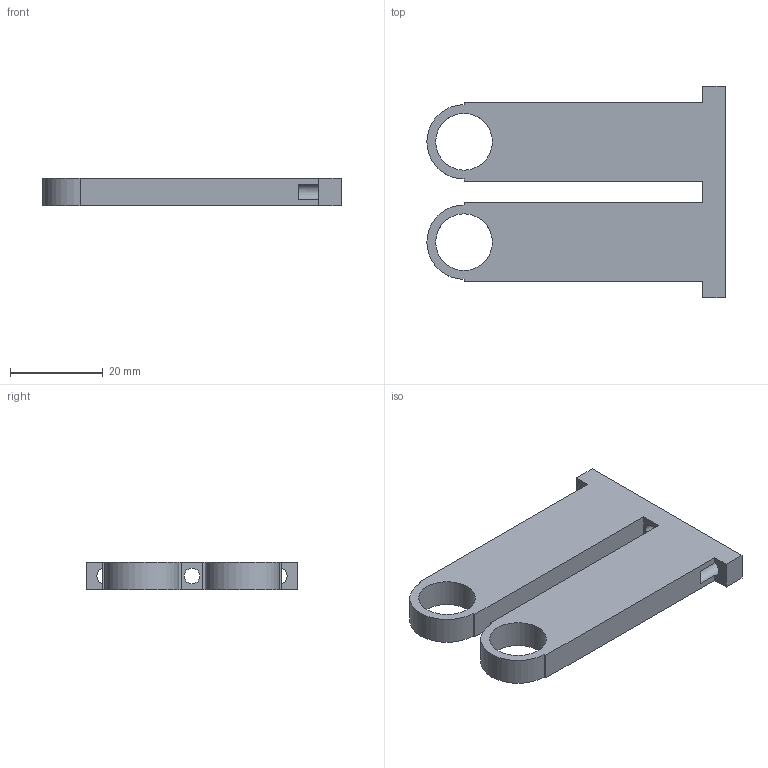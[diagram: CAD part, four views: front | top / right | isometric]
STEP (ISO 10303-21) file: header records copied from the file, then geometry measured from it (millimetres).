
FILE_DESCRIPTION(('Open CASCADE Model'),'2;1');
FILE_NAME('A11_center_plain_bearing_pedestal','2026-11-05T16:12:14',( 'Author'),('Open CASCADE'),'Open CASCADE STEP processor 7.9', 'build123d','Unknown');
FILE_SCHEMA(('AUTOMOTIVE_DESIGN { 1 0 10303 214 1 1 1 1 }'));
Length unit declared in the file: millimetre
Products named in the file (2): A11_center_plain_bearing_pedestal
Assembly tree (1 placements, depth 2):
  A11_center_plain_bearing_pedestal
    A11_center_plain_bearing_pedestal
Bounding box: 64.2 x 45.6 x 6 mm (x, y, z)
Volume: 11417 mm3; surface area: 6426.9 mm2
Topology: 1 solids, 1 shells, 25 faces, 75 edges, 50 vertices
Faces by surface type: plane 18, cylinder 7
Full cylindrical faces by diameter (mm): 3.4 x3, 12.2 x2
Entity records: 1886 total; most frequent: CARTESIAN_POINT 310, DIRECTION 289, LINE 181, VECTOR 181, ORIENTED_EDGE 150, PCURVE 150, DEFINITIONAL_REPRESENTATION 150, EDGE_CURVE 75
